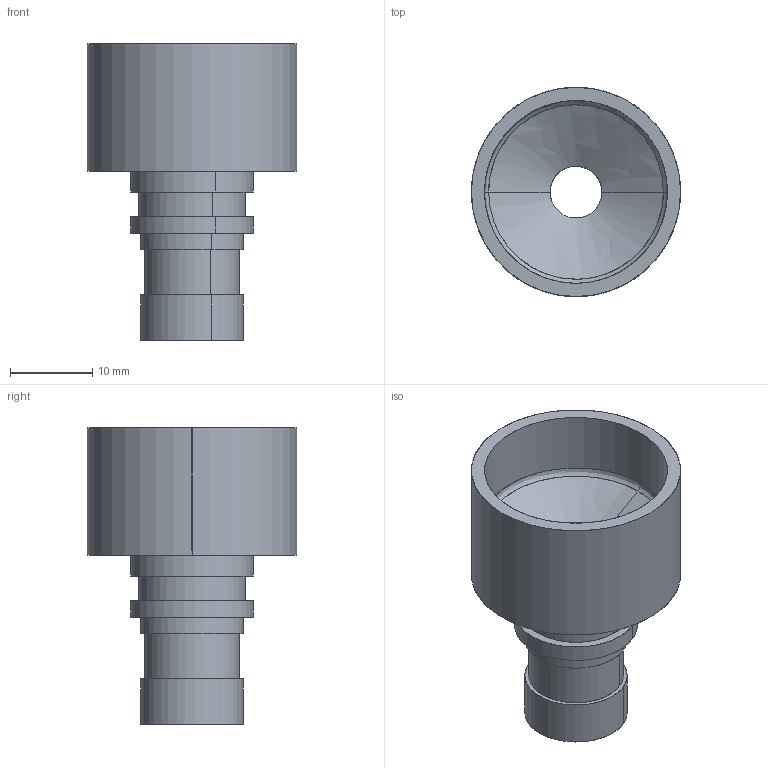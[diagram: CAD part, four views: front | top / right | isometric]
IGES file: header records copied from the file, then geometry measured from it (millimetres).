
Start section: SolidWorks IGES file using analytic representation for surfaces
Global section: file name: 9.5^70-仩R25.4-PH.IGS,; native system: SolidWorks 2012; preprocessor: SolidWorks 2012; author: harada; date: 130902.113650; units: millimetre
Bounding box: 25.4 x 25.4 x 36 mm (x, y, z)
Surface area: 4272.2 mm2 (no closed solid volume)
Topology: 0 solids, 0 shells, 33 faces, 676 edges, 676 vertices
Faces by surface type: revolution 22, bspline 11
